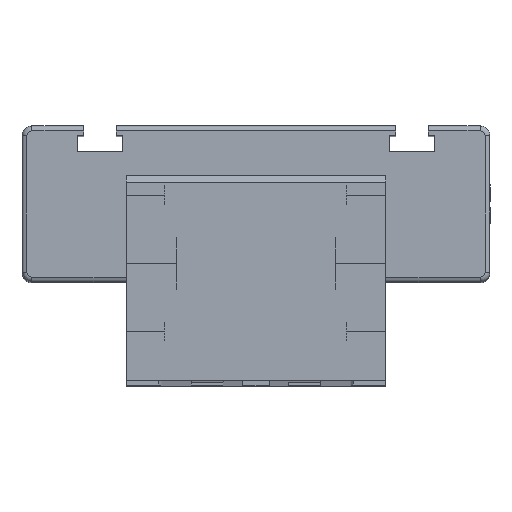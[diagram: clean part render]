
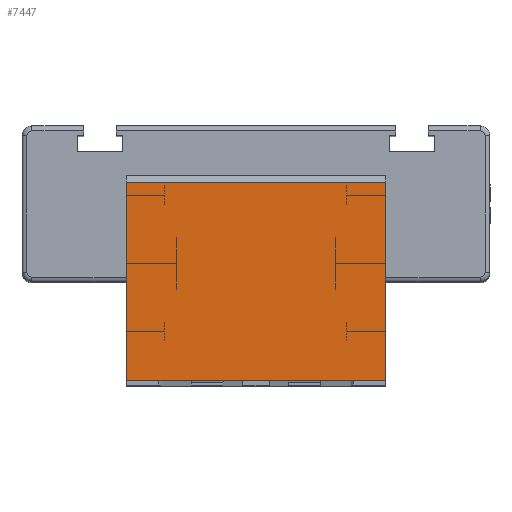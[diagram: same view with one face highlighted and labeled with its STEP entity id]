
A CAD part, top view. The second image highlights one B-rep face of the part: STEP entity #7447.
In plain terms, the highlighted planar face has unit normal (0, 0, 1).
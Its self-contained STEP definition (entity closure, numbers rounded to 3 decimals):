
#448 = DIRECTION ( 'NONE',  ( -1., 0., 0. ) ) ;
#933 = VECTOR ( 'NONE', #9534, 1000. ) ;
#974 = CARTESIAN_POINT ( 'NONE',  ( 0., 0., 29.5 ) ) ;
#1014 = LINE ( 'NONE', #4688, #3263 ) ;
#1025 = DIRECTION ( 'NONE',  ( -1., 0., 0. ) ) ;
#1696 = LINE ( 'NONE', #8921, #10476 ) ;
#1836 = EDGE_CURVE ( 'NONE', #7598, #8179, #10442, .T. ) ;
#2016 = PLANE ( 'NONE',  #8581 ) ;
#2974 = FACE_OUTER_BOUND ( 'NONE', #4358, .T. ) ;
#3178 = LINE ( 'NONE', #10354, #933 ) ;
#3194 = VERTEX_POINT ( 'NONE', #5189 ) ;
#3263 = VECTOR ( 'NONE', #6397, 1000. ) ;
#3533 = EDGE_CURVE ( 'NONE', #3194, #10215, #1696, .T. ) ;
#3691 = CARTESIAN_POINT ( 'NONE',  ( 80., 0., 29.5 ) ) ;
#4358 = EDGE_LOOP ( 'NONE', ( #7828, #6647, #7888, #7986 ) ) ;
#4571 = DIRECTION ( 'NONE',  ( 0., 0., -1. ) ) ;
#4688 = CARTESIAN_POINT ( 'NONE',  ( 0., 0., 29.5 ) ) ;
#5103 = VECTOR ( 'NONE', #1025, 1000. ) ;
#5189 = CARTESIAN_POINT ( 'NONE',  ( 80., 0., 29.5 ) ) ;
#6108 = CARTESIAN_POINT ( 'NONE',  ( 80., 61., 29.5 ) ) ;
#6397 = DIRECTION ( 'NONE',  ( 0., -1., 0. ) ) ;
#6456 = CARTESIAN_POINT ( 'NONE',  ( 80., 61., 29.5 ) ) ;
#6533 = EDGE_CURVE ( 'NONE', #8179, #10215, #1014, .T. ) ;
#6647 = ORIENTED_EDGE ( 'NONE', *, *, #1836, .T. ) ;
#7447 = ADVANCED_FACE ( 'NONE', ( #2974 ), #2016, .F. ) ;
#7598 = VERTEX_POINT ( 'NONE', #6456 ) ;
#7828 = ORIENTED_EDGE ( 'NONE', *, *, #9148, .F. ) ;
#7888 = ORIENTED_EDGE ( 'NONE', *, *, #6533, .T. ) ;
#7986 = ORIENTED_EDGE ( 'NONE', *, *, #3533, .F. ) ;
#8179 = VERTEX_POINT ( 'NONE', #9833 ) ;
#8581 = AXIS2_PLACEMENT_3D ( 'NONE', #3691, #4571, #10510 ) ;
#8921 = CARTESIAN_POINT ( 'NONE',  ( 80., 0., 29.5 ) ) ;
#9148 = EDGE_CURVE ( 'NONE', #7598, #3194, #3178, .T. ) ;
#9534 = DIRECTION ( 'NONE',  ( 0., -1., 0. ) ) ;
#9833 = CARTESIAN_POINT ( 'NONE',  ( 0., 61., 29.5 ) ) ;
#10215 = VERTEX_POINT ( 'NONE', #974 ) ;
#10354 = CARTESIAN_POINT ( 'NONE',  ( 80., 0., 29.5 ) ) ;
#10442 = LINE ( 'NONE', #6108, #5103 ) ;
#10476 = VECTOR ( 'NONE', #448, 1000. ) ;
#10510 = DIRECTION ( 'NONE',  ( 0., 1., 0. ) ) ;
